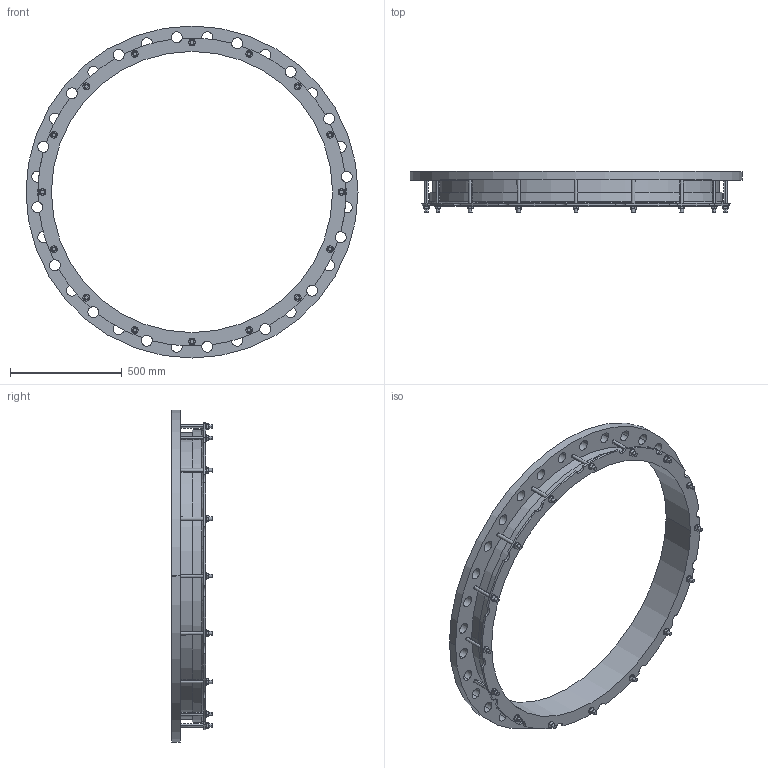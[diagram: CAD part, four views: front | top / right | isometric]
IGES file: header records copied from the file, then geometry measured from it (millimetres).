
Start section:  PTC IGES file: 1255x1200pn16_16not.igs
Global section: file name: 1255x1200pn16_16not.igs; native system: Creo Parametric by PTC Inc.; preprocessor: 2016130; author: mfairey; organization: Unknown; date: 20190117.141115; units: millimetre
Bounding box: 1485 x 182 x 1485 mm (x, y, z)
Surface area: 2768324.4 mm2 (no closed solid volume)
Topology: 0 solids, 0 shells, 352 faces, 1892 edges, 1892 vertices
Faces by surface type: revolution 204, bspline 148
